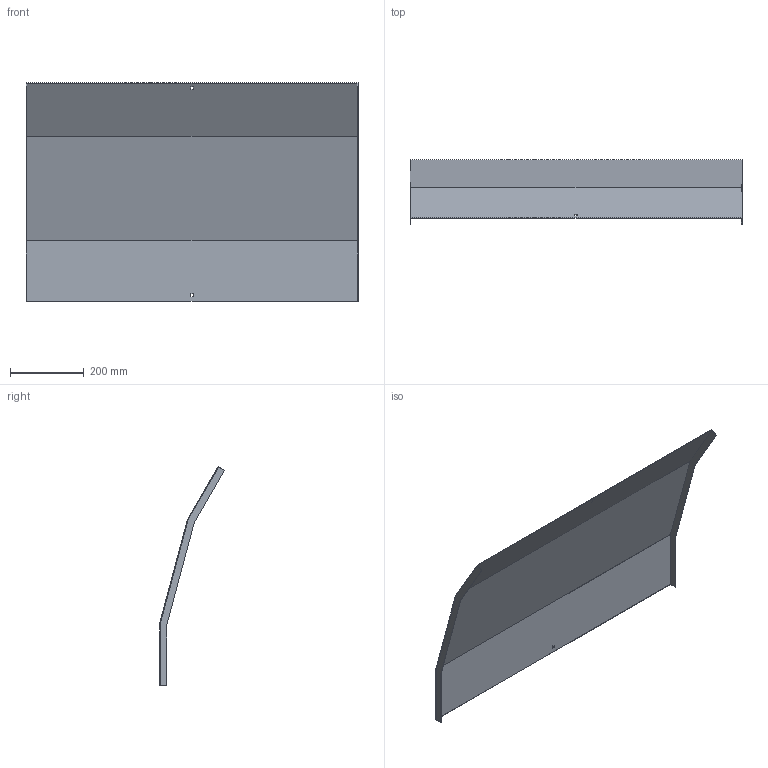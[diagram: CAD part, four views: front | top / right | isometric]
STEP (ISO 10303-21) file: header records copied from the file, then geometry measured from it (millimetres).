
FILE_DESCRIPTION (( 'STEP AP214' ), '1' );
FILE_NAME ('35N5J900.step', '2025-02-21T10:29:59', ( '' ), ( '' ), 'SwSTEP 2.0', 'SolidWorks 2023', '' );
FILE_SCHEMA (( 'AUTOMOTIVE_DESIGN' ));
Length unit declared in the file: millimetre
Products named in the file (1): 35N5J900
Bounding box: 903 x 176.54 x 594.21 mm (x, y, z)
Volume: 882385.7 mm3; surface area: 1181276.5 mm2
Topology: 1 solids, 1 shells, 26 faces, 72 edges, 48 vertices
Faces by surface type: plane 26
Entity records: 847 total; most frequent: CARTESIAN_POINT 147, ORIENTED_EDGE 144, DIRECTION 126, LINE 72, VECTOR 72, EDGE_CURVE 72, VERTEX_POINT 48, EDGE_LOOP 30
